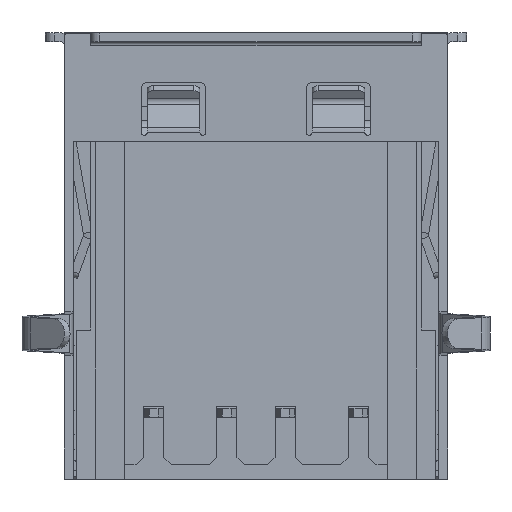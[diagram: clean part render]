
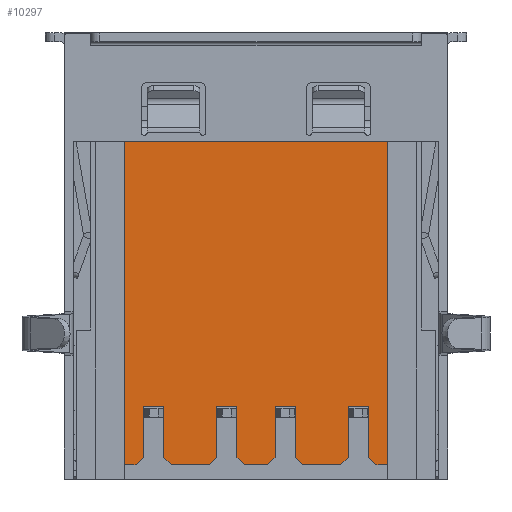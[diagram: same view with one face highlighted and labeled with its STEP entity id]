
A CAD part, front view. The second image highlights one B-rep face of the part: STEP entity #10297.
In plain terms, the highlighted planar face has unit normal (0, -1, 0).
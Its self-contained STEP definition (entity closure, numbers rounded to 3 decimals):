
#889=FACE_OUTER_BOUND('',#1435,.T.);
#1435=EDGE_LOOP('',(#8519,#8520,#8521,#8522,#8523,#8524,#8525,#8526,#8527,
#8528,#8529,#8530,#8531,#8532,#8533,#8534,#8535,#8536,#8537,#8538,#8539,
#8540,#8541,#8542,#8543,#8544,#8545,#8546));
#2385=LINE('',#16678,#3597);
#2438=LINE('',#16781,#3650);
#2439=LINE('',#16785,#3651);
#2440=LINE('',#16787,#3652);
#2441=LINE('',#16788,#3653);
#2442=LINE('',#16790,#3654);
#2443=LINE('',#16792,#3655);
#2444=LINE('',#16794,#3656);
#2445=LINE('',#16796,#3657);
#2446=LINE('',#16798,#3658);
#2447=LINE('',#16800,#3659);
#2448=LINE('',#16802,#3660);
#2449=LINE('',#16804,#3661);
#2450=LINE('',#16806,#3662);
#2451=LINE('',#16808,#3663);
#2452=LINE('',#16810,#3664);
#2453=LINE('',#16812,#3665);
#2454=LINE('',#16814,#3666);
#2455=LINE('',#16816,#3667);
#2456=LINE('',#16818,#3668);
#2457=LINE('',#16820,#3669);
#2458=LINE('',#16822,#3670);
#2459=LINE('',#16824,#3671);
#2460=LINE('',#16826,#3672);
#2461=LINE('',#16828,#3673);
#2462=LINE('',#16830,#3674);
#2463=LINE('',#16832,#3675);
#2464=LINE('',#16833,#3676);
#3597=VECTOR('',#13018,9.);
#3650=VECTOR('',#13101,11.04);
#3651=VECTOR('',#13104,0.354);
#3652=VECTOR('',#13105,0.4);
#3653=VECTOR('',#13106,11.04);
#3654=VECTOR('',#13107,0.4);
#3655=VECTOR('',#13108,0.354);
#3656=VECTOR('',#13109,1.75);
#3657=VECTOR('',#13110,0.7);
#3658=VECTOR('',#13111,1.75);
#3659=VECTOR('',#13112,0.354);
#3660=VECTOR('',#13113,1.3);
#3661=VECTOR('',#13114,0.354);
#3662=VECTOR('',#13115,1.75);
#3663=VECTOR('',#13116,0.7);
#3664=VECTOR('',#13117,1.75);
#3665=VECTOR('',#13118,0.354);
#3666=VECTOR('',#13119,0.8);
#3667=VECTOR('',#13120,0.354);
#3668=VECTOR('',#13121,1.75);
#3669=VECTOR('',#13122,0.7);
#3670=VECTOR('',#13123,1.75);
#3671=VECTOR('',#13124,0.354);
#3672=VECTOR('',#13125,1.3);
#3673=VECTOR('',#13126,0.354);
#3674=VECTOR('',#13127,1.75);
#3675=VECTOR('',#13128,0.7);
#3676=VECTOR('',#13129,1.75);
#4733=VERTEX_POINT('',#16675);
#4734=VERTEX_POINT('',#16677);
#4769=VERTEX_POINT('',#16779);
#4770=VERTEX_POINT('',#16783);
#4771=VERTEX_POINT('',#16784);
#4772=VERTEX_POINT('',#16786);
#4773=VERTEX_POINT('',#16789);
#4774=VERTEX_POINT('',#16791);
#4775=VERTEX_POINT('',#16793);
#4776=VERTEX_POINT('',#16795);
#4777=VERTEX_POINT('',#16797);
#4778=VERTEX_POINT('',#16799);
#4779=VERTEX_POINT('',#16801);
#4780=VERTEX_POINT('',#16803);
#4781=VERTEX_POINT('',#16805);
#4782=VERTEX_POINT('',#16807);
#4783=VERTEX_POINT('',#16809);
#4784=VERTEX_POINT('',#16811);
#4785=VERTEX_POINT('',#16813);
#4786=VERTEX_POINT('',#16815);
#4787=VERTEX_POINT('',#16817);
#4788=VERTEX_POINT('',#16819);
#4789=VERTEX_POINT('',#16821);
#4790=VERTEX_POINT('',#16823);
#4791=VERTEX_POINT('',#16825);
#4792=VERTEX_POINT('',#16827);
#4793=VERTEX_POINT('',#16829);
#4794=VERTEX_POINT('',#16831);
#6034=EDGE_CURVE('',#4733,#4734,#2385,.T.);
#6087=EDGE_CURVE('',#4769,#4733,#2438,.T.);
#6088=EDGE_CURVE('',#4770,#4771,#2439,.T.);
#6089=EDGE_CURVE('',#4772,#4771,#2440,.T.);
#6090=EDGE_CURVE('',#4772,#4734,#2441,.T.);
#6091=EDGE_CURVE('',#4769,#4773,#2442,.T.);
#6092=EDGE_CURVE('',#4773,#4774,#2443,.T.);
#6093=EDGE_CURVE('',#4775,#4774,#2444,.T.);
#6094=EDGE_CURVE('',#4776,#4775,#2445,.T.);
#6095=EDGE_CURVE('',#4777,#4776,#2446,.T.);
#6096=EDGE_CURVE('',#4777,#4778,#2447,.T.);
#6097=EDGE_CURVE('',#4779,#4778,#2448,.T.);
#6098=EDGE_CURVE('',#4779,#4780,#2449,.T.);
#6099=EDGE_CURVE('',#4781,#4780,#2450,.T.);
#6100=EDGE_CURVE('',#4782,#4781,#2451,.T.);
#6101=EDGE_CURVE('',#4783,#4782,#2452,.T.);
#6102=EDGE_CURVE('',#4783,#4784,#2453,.T.);
#6103=EDGE_CURVE('',#4785,#4784,#2454,.T.);
#6104=EDGE_CURVE('',#4785,#4786,#2455,.T.);
#6105=EDGE_CURVE('',#4787,#4786,#2456,.T.);
#6106=EDGE_CURVE('',#4788,#4787,#2457,.T.);
#6107=EDGE_CURVE('',#4789,#4788,#2458,.T.);
#6108=EDGE_CURVE('',#4789,#4790,#2459,.T.);
#6109=EDGE_CURVE('',#4791,#4790,#2460,.T.);
#6110=EDGE_CURVE('',#4791,#4792,#2461,.T.);
#6111=EDGE_CURVE('',#4793,#4792,#2462,.T.);
#6112=EDGE_CURVE('',#4794,#4793,#2463,.T.);
#6113=EDGE_CURVE('',#4770,#4794,#2464,.T.);
#8519=ORIENTED_EDGE('',*,*,#6088,.T.);
#8520=ORIENTED_EDGE('',*,*,#6089,.F.);
#8521=ORIENTED_EDGE('',*,*,#6090,.T.);
#8522=ORIENTED_EDGE('',*,*,#6034,.F.);
#8523=ORIENTED_EDGE('',*,*,#6087,.F.);
#8524=ORIENTED_EDGE('',*,*,#6091,.T.);
#8525=ORIENTED_EDGE('',*,*,#6092,.T.);
#8526=ORIENTED_EDGE('',*,*,#6093,.F.);
#8527=ORIENTED_EDGE('',*,*,#6094,.F.);
#8528=ORIENTED_EDGE('',*,*,#6095,.F.);
#8529=ORIENTED_EDGE('',*,*,#6096,.T.);
#8530=ORIENTED_EDGE('',*,*,#6097,.F.);
#8531=ORIENTED_EDGE('',*,*,#6098,.T.);
#8532=ORIENTED_EDGE('',*,*,#6099,.F.);
#8533=ORIENTED_EDGE('',*,*,#6100,.F.);
#8534=ORIENTED_EDGE('',*,*,#6101,.F.);
#8535=ORIENTED_EDGE('',*,*,#6102,.T.);
#8536=ORIENTED_EDGE('',*,*,#6103,.F.);
#8537=ORIENTED_EDGE('',*,*,#6104,.T.);
#8538=ORIENTED_EDGE('',*,*,#6105,.F.);
#8539=ORIENTED_EDGE('',*,*,#6106,.F.);
#8540=ORIENTED_EDGE('',*,*,#6107,.F.);
#8541=ORIENTED_EDGE('',*,*,#6108,.T.);
#8542=ORIENTED_EDGE('',*,*,#6109,.F.);
#8543=ORIENTED_EDGE('',*,*,#6110,.T.);
#8544=ORIENTED_EDGE('',*,*,#6111,.F.);
#8545=ORIENTED_EDGE('',*,*,#6112,.F.);
#8546=ORIENTED_EDGE('',*,*,#6113,.F.);
#9817=PLANE('',#11013);
#10297=ADVANCED_FACE('',(#889),#9817,.T.);
#11013=AXIS2_PLACEMENT_3D('',#16782,#13102,#13103);
#13018=DIRECTION('',(1.,0.,0.));
#13101=DIRECTION('',(0.,0.,1.));
#13102=DIRECTION('center_axis',(0.,-1.,0.));
#13103=DIRECTION('ref_axis',(1.,0.,0.));
#13104=DIRECTION('',(0.707,0.,-0.707));
#13105=DIRECTION('',(-1.,0.,0.));
#13106=DIRECTION('',(0.,0.,1.));
#13107=DIRECTION('',(1.,0.,0.));
#13108=DIRECTION('',(0.707,0.,0.707));
#13109=DIRECTION('',(0.,0.,-1.));
#13110=DIRECTION('',(-1.,0.,0.));
#13111=DIRECTION('',(0.,0.,1.));
#13112=DIRECTION('',(0.707,0.,-0.707));
#13113=DIRECTION('',(-1.,0.,0.));
#13114=DIRECTION('',(0.707,0.,0.707));
#13115=DIRECTION('',(0.,0.,-1.));
#13116=DIRECTION('',(-1.,0.,0.));
#13117=DIRECTION('',(0.,0.,1.));
#13118=DIRECTION('',(0.707,0.,-0.707));
#13119=DIRECTION('',(-1.,0.,0.));
#13120=DIRECTION('',(0.707,0.,0.707));
#13121=DIRECTION('',(0.,0.,-1.));
#13122=DIRECTION('',(-1.,0.,0.));
#13123=DIRECTION('',(0.,0.,1.));
#13124=DIRECTION('',(0.707,0.,-0.707));
#13125=DIRECTION('',(-1.,0.,0.));
#13126=DIRECTION('',(0.707,0.,0.707));
#13127=DIRECTION('',(0.,0.,-1.));
#13128=DIRECTION('',(-1.,0.,0.));
#13129=DIRECTION('',(0.,0.,1.));
#16675=CARTESIAN_POINT('',(-4.5,0.4,11.54));
#16677=CARTESIAN_POINT('',(4.5,0.4,11.54));
#16678=CARTESIAN_POINT('',(-4.5,0.4,11.54));
#16779=CARTESIAN_POINT('',(-4.5,0.4,0.5));
#16781=CARTESIAN_POINT('',(-4.5,0.4,0.5));
#16782=CARTESIAN_POINT('Origin',(-4.5,0.4,0.));
#16783=CARTESIAN_POINT('',(3.85,0.4,0.75));
#16784=CARTESIAN_POINT('',(4.1,0.4,0.5));
#16785=CARTESIAN_POINT('',(3.85,0.4,0.75));
#16786=CARTESIAN_POINT('',(4.5,0.4,0.5));
#16787=CARTESIAN_POINT('',(4.5,0.4,0.5));
#16788=CARTESIAN_POINT('',(4.5,0.4,0.5));
#16789=CARTESIAN_POINT('',(-4.1,0.4,0.5));
#16790=CARTESIAN_POINT('',(-4.5,0.4,0.5));
#16791=CARTESIAN_POINT('',(-3.85,0.4,0.75));
#16792=CARTESIAN_POINT('',(-4.1,0.4,0.5));
#16793=CARTESIAN_POINT('',(-3.85,0.4,2.5));
#16794=CARTESIAN_POINT('',(-3.85,0.4,2.5));
#16795=CARTESIAN_POINT('',(-3.15,0.4,2.5));
#16796=CARTESIAN_POINT('',(-3.15,0.4,2.5));
#16797=CARTESIAN_POINT('',(-3.15,0.4,0.75));
#16798=CARTESIAN_POINT('',(-3.15,0.4,0.75));
#16799=CARTESIAN_POINT('',(-2.9,0.4,0.5));
#16800=CARTESIAN_POINT('',(-3.15,0.4,0.75));
#16801=CARTESIAN_POINT('',(-1.6,0.4,0.5));
#16802=CARTESIAN_POINT('',(-1.6,0.4,0.5));
#16803=CARTESIAN_POINT('',(-1.35,0.4,0.75));
#16804=CARTESIAN_POINT('',(-1.6,0.4,0.5));
#16805=CARTESIAN_POINT('',(-1.35,0.4,2.5));
#16806=CARTESIAN_POINT('',(-1.35,0.4,2.5));
#16807=CARTESIAN_POINT('',(-0.65,0.4,2.5));
#16808=CARTESIAN_POINT('',(-0.65,0.4,2.5));
#16809=CARTESIAN_POINT('',(-0.65,0.4,0.75));
#16810=CARTESIAN_POINT('',(-0.65,0.4,0.75));
#16811=CARTESIAN_POINT('',(-0.4,0.4,0.5));
#16812=CARTESIAN_POINT('',(-0.65,0.4,0.75));
#16813=CARTESIAN_POINT('',(0.4,0.4,0.5));
#16814=CARTESIAN_POINT('',(0.4,0.4,0.5));
#16815=CARTESIAN_POINT('',(0.65,0.4,0.75));
#16816=CARTESIAN_POINT('',(0.4,0.4,0.5));
#16817=CARTESIAN_POINT('',(0.65,0.4,2.5));
#16818=CARTESIAN_POINT('',(0.65,0.4,2.5));
#16819=CARTESIAN_POINT('',(1.35,0.4,2.5));
#16820=CARTESIAN_POINT('',(1.35,0.4,2.5));
#16821=CARTESIAN_POINT('',(1.35,0.4,0.75));
#16822=CARTESIAN_POINT('',(1.35,0.4,0.75));
#16823=CARTESIAN_POINT('',(1.6,0.4,0.5));
#16824=CARTESIAN_POINT('',(1.35,0.4,0.75));
#16825=CARTESIAN_POINT('',(2.9,0.4,0.5));
#16826=CARTESIAN_POINT('',(2.9,0.4,0.5));
#16827=CARTESIAN_POINT('',(3.15,0.4,0.75));
#16828=CARTESIAN_POINT('',(2.9,0.4,0.5));
#16829=CARTESIAN_POINT('',(3.15,0.4,2.5));
#16830=CARTESIAN_POINT('',(3.15,0.4,2.5));
#16831=CARTESIAN_POINT('',(3.85,0.4,2.5));
#16832=CARTESIAN_POINT('',(3.85,0.4,2.5));
#16833=CARTESIAN_POINT('',(3.85,0.4,0.75));
